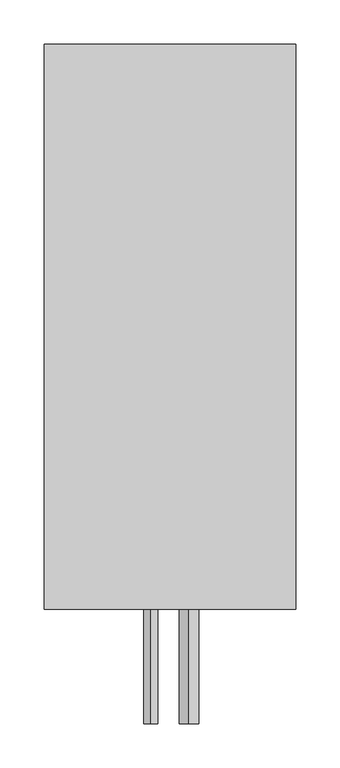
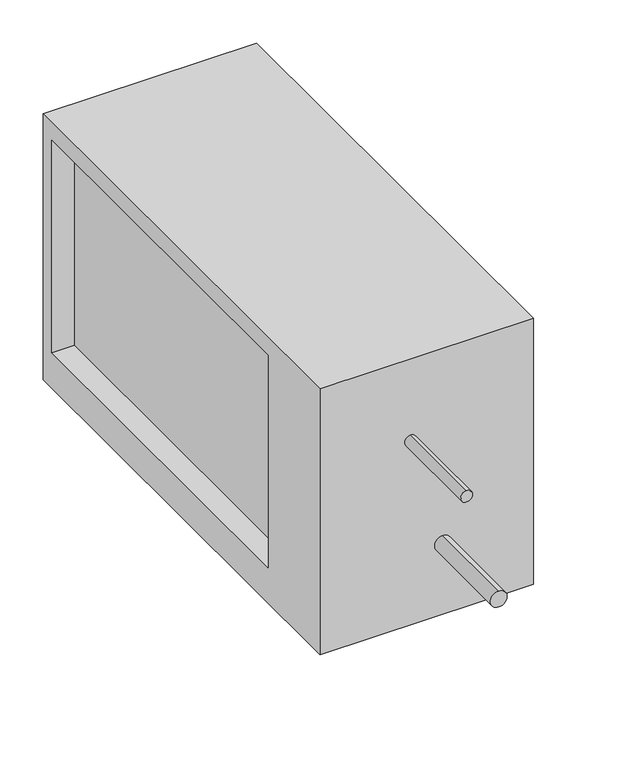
"""IFC4 building model written with IfcOpenShell, lengths in millimetres: proxy geometry, СВ_ВоздухоохладительФреоновый_КанальныйПрямоугольный_200-1000_SPC-F : SPC-F-500x300-R."""

from ifc_helpers import new_model, si_unit, point, frame, frame_2d, origin, place, context, project, spatial, polyline, circle_curve, trimmed, segment, composite_curve, outline, extrude, source, transform, mapped, element, save


def mechanical_equipment_e76ec92c(model_context):
    return source(origin(), model_context, "Body", "SweptSolid", [
        extrude(outline(polyline([(-370.0, -200.0), (-370.0, 175.0), (270.0, 175.0), (270.0, -200.0), (-370.0, -200.0)]), holes=[polyline([(-250.0, 150.0), (-250.0, -150.0), (250.0, -150.0), (250.0, 150.0), (-250.0, 150.0)])]), frame((-142.5, 0.0, 0.0), z_axis=(1.0, 0.0, 0.0), x_axis=(0.0, 1.0, 0.0)), (0.0, 0.0, 1.0), 285.0),
        extrude(outline(composite_curve([segment(trimmed(circle_curve(frame_2d((-100.0, 21.5)), 11.1), [point((-88.9, 21.5))], [point((-111.1, 21.5))], False, "CARTESIAN"), True, "CONTINUOUS"), segment(trimmed(circle_curve(frame_2d((-100.0, 21.5)), 11.1), [point((-111.1, 21.5))], [point((-88.9, 21.5))], False, "CARTESIAN"), True, "CONTINUOUS")], self_intersect=False)), frame((0.0, -500.0, 0.0), z_axis=(0.0, 1.0, 0.0), x_axis=(0.0, 0.0, 1.0)), (0.0, 0.0, 1.0), 130.0),
        extrude(outline(composite_curve([segment(trimmed(circle_curve(frame_2d((60.0, -21.5)), 7.95), [point((67.95, -21.5))], [point((52.05, -21.5))], False, "CARTESIAN"), True, "CONTINUOUS"), segment(trimmed(circle_curve(frame_2d((60.0, -21.5)), 7.95), [point((52.05, -21.5))], [point((67.95, -21.5))], False, "CARTESIAN"), True, "CONTINUOUS")], self_intersect=False)), frame((0.0, -500.0, 0.0), z_axis=(0.0, 1.0, 0.0), x_axis=(0.0, 0.0, 1.0)), (0.0, 0.0, 1.0), 130.0),
        extrude(outline(composite_curve([segment(trimmed(circle_curve(frame_2d((0.0, -330.0)), 11.0), [point((-11.0, -330.0))], [point((11.0, -330.0))], False, "CARTESIAN"), True, "CONTINUOUS"), segment(trimmed(circle_curve(frame_2d((0.0, -330.0)), 11.0), [point((11.0, -330.0))], [point((-11.0, -330.0))], False, "CARTESIAN"), True, "CONTINUOUS")], self_intersect=False)), frame((0.0, 0.0, -220.0), z_axis=(0.0, 0.0, 1.0), x_axis=(1.0, 0.0, 0.0)), (0.0, 0.0, 1.0), 20.0),
        extrude(outline(polyline([(112.5, 250.0), (112.5, -250.0), (-112.5, -250.0), (-112.5, 250.0), (112.5, 250.0)])), frame((0.0, 0.0, -150.0), z_axis=(0.0, 0.0, 1.0), x_axis=(1.0, 0.0, 0.0)), (0.0, 0.0, 1.0), 300.0),
    ])


if __name__ == "__main__":
    model = new_model("IFC4")
    model_context = context("Model", 3, world=origin())
    ifc_project = project(units=[si_unit("LENGTHUNIT", "METRE", prefix="MILLI")], contexts=[model_context])
    site = spatial("IfcSite", under=ifc_project)
    building = spatial("IfcBuilding", under=site)
    placement = place(None, origin())
    mechanical_equipment_shape = mechanical_equipment_e76ec92c(model_context)
    element("IfcBuildingElementProxy", 1, Name="СВ_ВоздухоохладительФреоновый_КанальныйПрямоугольный_200-1000_SPC-F : SPC-F-500x300-R", ObjectType="СВ_ВоздухоохладительФреоновый_КанальныйПрямоугольный_200-1000_SPC-F : SPC-F-500x300-R", at=placement, inside=building, context=model_context, shape_type="MappedRepresentation", body=[
        mapped(mechanical_equipment_shape, transform((0.0, 0.0, 0.0), x_axis=(1.0, 0.0, 0.0), y_axis=(0.0, 1.0, 0.0), z_axis=(0.0, 0.0, 1.0))),
    ])
    save(model, "model.ifc")
